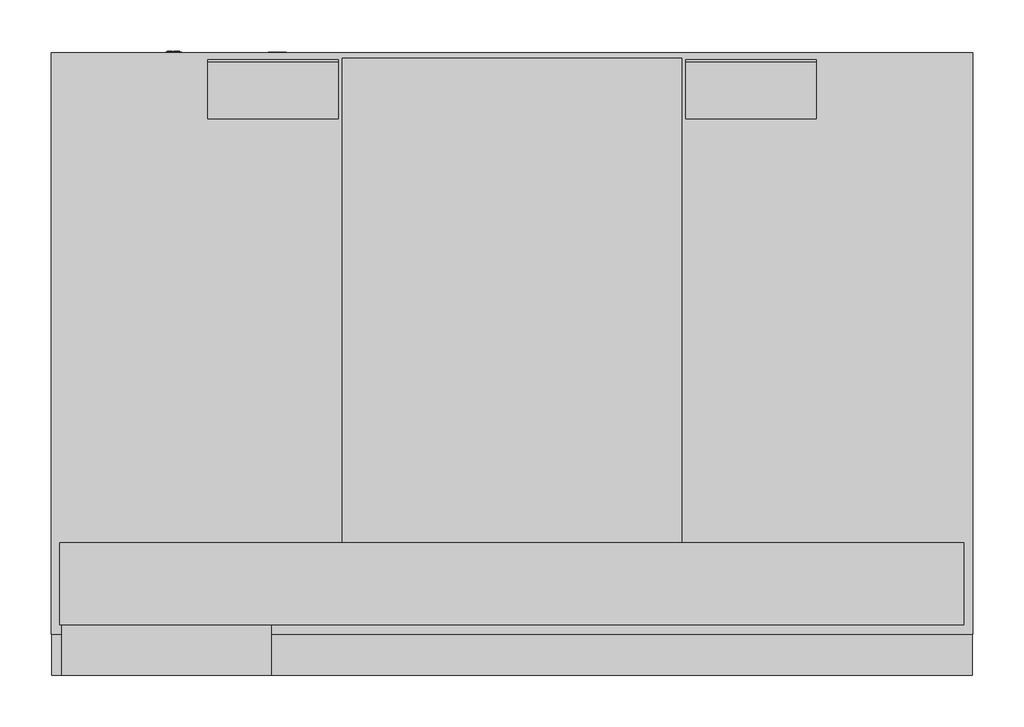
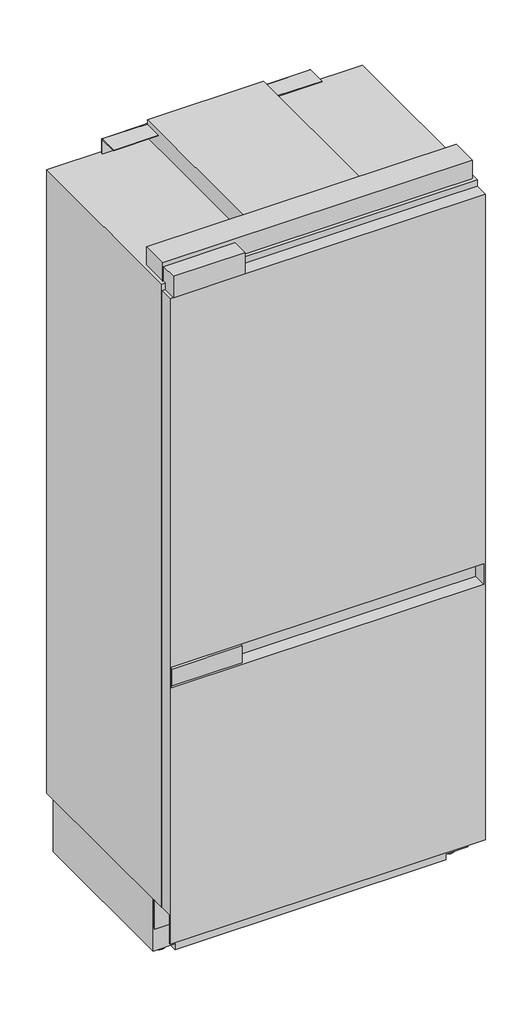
# Not in any storey: 1 proxy.
"""IFC4 building model written with IfcOpenShell, lengths in millimetres."""

import ifcopenshell
import ifcopenshell.guid

model = None  # the IFC model being written
_history = None  # IfcOwnerHistory: only IFC2X3 demands one
_inside = {}  # id of a spatial element -> (the spatial element, [elements in it])
_under = {}  # id of a project, library or spatial element -> (it, [spatial elements below it])
_declared = {}  # id of a project -> (the project, [libraries it declares])
_typed = {}  # id of a type object -> (the type object, [elements of that type])
_made_of = {}  # id of a material, layer set ... -> (it, [elements and type objects made of it])


def new_model(schema):
    """Start an empty IFC model of exactly this schema.

    Asked for "IFC4X3", IfcOpenShell would pick the latest addendum, in which some entities
    have other attributes; the version numbers below select the first issue.
    IFC2X3 requires an IfcOwnerHistory on every rooted entity: one is made here for all.
    """
    global model, _history
    if schema == "IFC4X3":
        model = ifcopenshell.file(schema_version=(4, 3, 0, 0))
    else:
        model = ifcopenshell.file(schema=schema)
    _inside.clear()
    _under.clear()
    _declared.clear()
    _typed.clear()
    _made_of.clear()
    _history = None
    if model.schema == "IFC2X3":
        org = make("IfcOrganization", Name="unknown")
        user = make(
            "IfcPersonAndOrganization",
            ThePerson=make("IfcPerson", FamilyName="unknown"),
            TheOrganization=org,
        )
        app = make(
            "IfcApplication",
            ApplicationDeveloper=org,
            Version="unknown",
            ApplicationFullName="unknown",
            ApplicationIdentifier="unknown",
        )
        _history = make(
            "IfcOwnerHistory",
            OwningUser=user,
            OwningApplication=app,
            ChangeAction="ADDED",
            CreationDate=0,
        )
    return model


def make(cls, **values):
    """One entity of the class cls with the attributes given. An attribute that is None is left unset."""
    return model.create_entity(
        cls, **{name: value for name, value in values.items() if value is not None}
    )


def rooted(cls, **values):
    """An entity with a GlobalId (a new one), such as an element, a storey or a relation."""
    return make(cls, GlobalId=ifcopenshell.guid.new(), OwnerHistory=_history, **values)


def si_unit(unit_type, name, prefix=None):
    """IfcSIUnit, for example si_unit("LENGTHUNIT", "METRE", prefix="MILLI")."""
    return make("IfcSIUnit", UnitType=unit_type, Prefix=prefix, Name=name)


def assignment(units):
    """IfcUnitAssignment: the units of a project."""
    return None if units is None else make("IfcUnitAssignment", Units=units)


def point(xyz):
    """IfcCartesianPoint."""
    return None if xyz is None else make("IfcCartesianPoint", Coordinates=xyz)


def direction(xyz):
    """IfcDirection."""
    return None if xyz is None else make("IfcDirection", DirectionRatios=xyz)


def frame(location, z_axis=None, x_axis=None):
    """IfcAxis2Placement3D, a coordinate frame: its origin and axes. An axis left out is left unset."""
    return make(
        "IfcAxis2Placement3D",
        Location=point(location),
        Axis=direction(z_axis),
        RefDirection=direction(x_axis),
    )


def frame_2d(location, x_axis=None):
    """IfcAxis2Placement2D, a coordinate frame in the plane: its origin and x axis."""
    return make(
        "IfcAxis2Placement2D", Location=point(location), RefDirection=direction(x_axis)
    )


def origin():
    """The frame at (0, 0, 0) with its axes left unset."""
    return frame((0.0, 0.0, 0.0))


def place(relative_to, where):
    """IfcLocalPlacement: puts the frame where relative to a parent placement (None: the world)."""
    return make(
        "IfcLocalPlacement", PlacementRelTo=relative_to, RelativePlacement=where
    )


def context(
    kind, dimensions, precision=None, world=None, true_north=None, identifier=None
):
    """IfcGeometricRepresentationContext, for example the 3D "Model" context."""
    return make(
        "IfcGeometricRepresentationContext",
        ContextIdentifier=identifier,
        ContextType=kind,
        CoordinateSpaceDimension=dimensions,
        Precision=precision,
        WorldCoordinateSystem=world,
        TrueNorth=true_north,
    )


def project(units=None, contexts=None):
    """IfcProject with its units and contexts."""
    return rooted(
        "IfcProject",
        Name="project",
        RepresentationContexts=contexts,
        UnitsInContext=assignment(units),
    )


def spatial(cls, under=None, at=None, **own):
    """A site, building, storey or space (cls), placed at a placement, below another one or the project."""
    s = rooted(cls, ObjectPlacement=at, **own)
    if under is not None:
        _under.setdefault(under.id(), (under, []))[1].append(s)
    return s


def polyline(points):
    """IfcPolyline through the points."""
    return make("IfcPolyline", Points=[point(p) for p in points])


def circle_curve(where, radius):
    """IfcCircle in the frame where."""
    return make("IfcCircle", Position=where, Radius=radius)


def trimmed(basis, trim1, trim2, sense, master):
    """IfcTrimmedCurve: the piece of a basis curve between two trims."""
    return make(
        "IfcTrimmedCurve",
        BasisCurve=basis,
        Trim1=trim1,
        Trim2=trim2,
        SenseAgreement=sense,
        MasterRepresentation=master,
    )


def segment(curve, same_sense, transition):
    """IfcCompositeCurveSegment."""
    return make(
        "IfcCompositeCurveSegment",
        Transition=transition,
        SameSense=same_sense,
        ParentCurve=curve,
    )


def composite_curve(segments, self_intersect=None):
    """IfcCompositeCurve: segments joined end to end."""
    return make("IfcCompositeCurve", Segments=segments, SelfIntersect=self_intersect)


def outline(outer, holes=None, kind="AREA"):
    """IfcArbitraryClosedProfileDef: a profile drawn as a closed curve; with holes, ...WithVoids."""
    if holes is None:
        return make("IfcArbitraryClosedProfileDef", ProfileType=kind, OuterCurve=outer)
    return make(
        "IfcArbitraryProfileDefWithVoids",
        ProfileType=kind,
        OuterCurve=outer,
        InnerCurves=holes,
    )


def extrude(swept, where, along, depth):
    """IfcExtrudedAreaSolid: the profile swept, set in the frame where, extruded along a direction by depth."""
    return make(
        "IfcExtrudedAreaSolid",
        SweptArea=swept,
        Position=where,
        ExtrudedDirection=direction(along),
        Depth=depth,
    )


def faces_of(points, faces, orient=None, outer=None):
    """IfcFace entities. A face is a list of loops; a loop is a list of indices into points, from 0.

    orient and outer hold one flag for each loop. By default every Orientation is true, the
    first loop of a face is its IfcFaceOuterBound and the others are IfcFaceBound.
    """
    made = []
    for i, loops in enumerate(faces):
        bounds = []
        for j, loop in enumerate(loops):
            is_outer = j == 0 if outer is None else outer[i][j]
            bounds.append(
                make(
                    "IfcFaceOuterBound" if is_outer else "IfcFaceBound",
                    Bound=make("IfcPolyLoop", Polygon=[points[k] for k in loop]),
                    Orientation=True if orient is None else orient[i][j],
                )
            )
        made.append(make("IfcFace", Bounds=bounds))
    return made


def faceted_brep(points, faces, orient=None, outer=None, voids=None):
    """IfcFacetedBrep: a solid bounded by flat faces; with voids (closed shells), ...WithVoids."""
    shared = [point(p) for p in points]
    hull = make("IfcClosedShell", CfsFaces=faces_of(shared, faces, orient, outer))
    if voids is None:
        return make("IfcFacetedBrep", Outer=hull)
    return make(
        "IfcFacetedBrepWithVoids",
        Outer=hull,
        Voids=[
            make(cls, CfsFaces=faces_of(shared, fs, o, b)) for cls, fs, o, b in voids
        ],
    )


def shape(context_of_items, identifier, shape_type, items):
    """IfcShapeRepresentation: the items that make up one representation, for example the "Body"."""
    return make(
        "IfcShapeRepresentation",
        ContextOfItems=context_of_items,
        RepresentationIdentifier=identifier,
        RepresentationType=shape_type,
        Items=items,
    )


def source(mapping_origin, context_of_items, identifier, shape_type, items):
    """IfcRepresentationMap: a shape defined once, which mapped items show again and again."""
    return make(
        "IfcRepresentationMap",
        MappingOrigin=mapping_origin,
        MappedRepresentation=shape(context_of_items, identifier, shape_type, items),
    )


def transform(
    local_origin,
    x_axis=None,
    y_axis=None,
    z_axis=None,
    scale=None,
    scale2=None,
    scale3=None,
    uniform=True,
):
    """IfcCartesianTransformationOperator3D, or its non-uniform kind. x_axis, y_axis, z_axis: its Axis1, 2, 3."""
    if uniform:
        return make(
            "IfcCartesianTransformationOperator3D",
            Axis1=direction(x_axis),
            Axis2=direction(y_axis),
            LocalOrigin=point(local_origin),
            Scale=scale,
            Axis3=direction(z_axis),
        )
    return make(
        "IfcCartesianTransformationOperator3DnonUniform",
        Axis1=direction(x_axis),
        Axis2=direction(y_axis),
        LocalOrigin=point(local_origin),
        Scale=scale,
        Axis3=direction(z_axis),
        Scale2=scale2,
        Scale3=scale3,
    )


def mapped(mapping_source, mapping_target):
    """IfcMappedItem: shows the shape of a source again, moved by a transform."""
    return make(
        "IfcMappedItem", MappingSource=mapping_source, MappingTarget=mapping_target
    )


def made_of(thing, what):
    """Note that an element or type object is made of a material, layer set ...; save() writes the relation."""
    if what is not None:
        _made_of.setdefault(what.id(), (what, []))[1].append(thing)
    return thing


def element(
    cls,
    number,
    at=None,
    inside=None,
    cuts=None,
    type_object=None,
    material=None,
    context=None,
    identifier="Body",
    shape_type=None,
    held_by="IfcProductDefinitionShape",
    body=None,
    shapes=None,
    **own,
):
    """One element of the class cls, such as IfcWall. Its Tag is "e" and its number.

    at: its placement. inside: the storey or other place that contains it. cuts: it is an
    opening in that element (IfcRelVoidsElement). A single representation is given by context,
    identifier, shape_type and body (its items); several are given by shapes. held_by: the class
    of the entity that holds the representations. save() writes the other relations.
    """
    e = rooted(cls, Tag="e%d" % number, ObjectPlacement=at, **own)
    if body is not None:
        shapes = [shape(context, identifier, shape_type, body)]
    if shapes is not None:
        e.Representation = make(held_by, Representations=shapes)
    if inside is not None:
        _inside.setdefault(inside.id(), (inside, []))[1].append(e)
    if cuts is not None:
        rooted(
            "IfcRelVoidsElement", RelatingBuildingElement=cuts, RelatedOpeningElement=e
        )
    if type_object is not None:
        _typed.setdefault(type_object.id(), (type_object, []))[1].append(e)
    return made_of(e, material)


def aggregate(whole, parts):
    """IfcRelAggregates: a whole, such as a stair, and the parts it consists of."""
    return rooted("IfcRelAggregates", RelatingObject=whole, RelatedObjects=parts)


def save(model, path):
    """Write the relations noted so far, then the file.

    IfcRelAggregates (storeys below a building ...), IfcRelContainedInSpatialStructure (elements
    in a storey), IfcRelDefinesByType, IfcRelAssociatesMaterial and IfcRelDeclares: one each for
    every whole, place, type object, material and project.
    """
    for whole, parts in _under.values():
        aggregate(whole, parts)
    for where, things in _inside.values():
        rooted(
            "IfcRelContainedInSpatialStructure",
            RelatedElements=things,
            RelatingStructure=where,
        )
    for kind, things in _typed.values():
        rooted("IfcRelDefinesByType", RelatedObjects=things, RelatingType=kind)
    for what, things in _made_of.values():
        rooted("IfcRelAssociatesMaterial", RelatedObjects=things, RelatingMaterial=what)
    for by, libraries in _declared.values():
        rooted("IfcRelDeclares", RelatingContext=by, RelatedDefinitions=libraries)
    model.write(path)


def plane_surface(at):
    """IfcPlane: the flat surface through the origin of the frame at, square to its z axis."""
    return make("IfcPlane", Position=at)


def cylinder_surface(at, radius):
    """IfcCylindricalSurface: all points at the distance radius from the z axis of the frame at."""
    return make("IfcCylindricalSurface", Position=at, Radius=radius)


def advanced_brep(points, edges, surfaces, faces):
    """IfcAdvancedBrep: a solid bounded by faces that lie on surfaces and meet in shared edges.

    An edge is (start, end): straight between two places in points (the first is 0);
    or (start, end, curve); or (start, end, curve, False) where it runs against its curve.
    A face is (place in surfaces, loops), or (place, loops, False) where it looks against
    its surface's normal. A loop lists edges by number (the first is 1), with a minus sign
    where the edge is run from its end to its start. The first loop is the outer one.
    """
    corners = [point(p) for p in points]
    vertices = [make("IfcVertexPoint", VertexGeometry=c) for c in corners]
    made = []
    for start, end, *more in edges:
        made.append(
            make(
                "IfcEdgeCurve",
                EdgeStart=vertices[start],
                EdgeEnd=vertices[end],
                EdgeGeometry=more[0] if more else make("IfcPolyline", Points=[corners[start], corners[end]]),
                SameSense=more[1] if len(more) > 1 else True,
            )
        )
    hull = []
    for where, loops, *sense in faces:
        bounds = []
        for j, loop in enumerate(loops):
            ring = [make("IfcOrientedEdge", EdgeElement=made[abs(k) - 1], Orientation=k > 0) for k in loop]
            bounds.append(
                make(
                    "IfcFaceOuterBound" if j == 0 else "IfcFaceBound",
                    Bound=make("IfcEdgeLoop", EdgeList=ring),
                    Orientation=True,
                )
            )
        hull.append(make("IfcAdvancedFace", Bounds=bounds, FaceSurface=surfaces[where], SameSense=sense[0] if sense else True))
    return make("IfcAdvancedBrep", Outer=make("IfcClosedShell", CfsFaces=hull))


def specialty_equipment_c1e7b618(model_context):
    return source(origin(), model_context, "Body", "SolidModel", [
        extrude(outline(polyline([(-244.560022, 19.5805006), (-444.560022, 19.5805006), (-444.560022, 59.5250826), (-244.560022, 59.5250826), (-244.560022, 19.5805006)])), frame((0.0, 0.0, 878.4), z_axis=(0.0, 0.0, 1.0), x_axis=(1.0, 0.0, 0.0)), (0.0, 0.0, 1.0), 50.4801375),
        extrude(outline(polyline([(-235.6444763, 19.5805006), (-440.5, 19.5805006), (-440.5, 69.0), (-235.6444763, 69.0), (-235.6444763, 19.5805006)])), frame((0.0, 0.0, 2048.9273907), z_axis=(0.0, 0.0, 1.0), x_axis=(1.0, 0.0, 0.0)), (0.0, 0.0, 1.0), 63.9078998),
        faceted_brep([(450.5, 19.5805006, 2048.9273907), (450.5, 19.5805006, 100.0958717), (450.5, 22.474204, 100.0958717), (450.5, 22.474204, 187.4499998), (450.5, 95.0, 187.4499998), (450.5, 95.0, 100.0958717), (450.5, 99.0001378, 100.0958717), (450.5, 99.0001378, 2048.9273907), (-450.5, 19.5805006, 2048.9273907), (-450.5, 99.0001378, 2048.9273907), (-450.5, 99.0001378, 100.0958717), (-450.5, 95.0, 100.0958717), (-450.5, 95.0, 187.4499998), (-450.5, 22.474204, 187.4499998), (-450.5, 22.474204, 100.0958717), (-450.5, 19.5805006, 100.0958717), (-446.5, 19.5805006, 934.8801375), (446.5, 19.5805006, 934.8801375), (446.5, 19.5805006, 872.4), (-446.5, 19.5805006, 872.4), (446.5, 93.7083842, 934.8801375), (-446.5, 93.7083842, 934.8801375), (-446.5, 93.7083842, 872.4), (446.5, 93.7083842, 872.4)], [[[0, 1, 2, 3, 4, 5, 6, 7]], [[8, 9, 10, 11, 12, 13, 14, 15]], [[1, 0, 8, 15], [16, 17, 18, 19]], [[1, 15, 14, 2]], [[10, 6, 5, 11]], [[7, 6, 10, 9]], [[0, 7, 9, 8]], [[13, 3, 2, 14]], [[4, 12, 11, 5]], [[3, 13, 12, 4]], [[20, 21, 22, 23]], [[21, 20, 17, 16]], [[22, 21, 16, 19]], [[23, 22, 19, 18]], [[20, 23, 18, 17]]]),
        extrude(outline(composite_curve([segment(trimmed(circle_curve(frame_2d((619.3046941, 2111.8999939)), 2.5), [point((619.3046941, 2114.3999939))], [point((621.8046941, 2111.8999939))], False, "CARTESIAN"), True, "CONTINUOUS"), segment(polyline([(621.8046941, 2111.8999939), (621.8046941, 2068.8999998), (619.3046941, 2068.8999998), (619.3046941, 2112.2000427), (563.7854458, 2112.2000427), (563.7854458, 2114.3999939), (619.3046941, 2114.3999939)]), True, "CONTINUOUS")], self_intersect=False)), frame((170.0666274, 0.0, 0.0), z_axis=(1.0, 0.0, 0.0), x_axis=(0.0, 1.0, 0.0)), (0.0, 0.0, 1.0), 127.807223),
        extrude(outline(composite_curve([segment(trimmed(circle_curve(frame_2d((619.3046941, 2111.8999939)), 2.5), [point((619.3046941, 2114.3999939))], [point((621.8046941, 2111.8999939))], False, "CARTESIAN"), True, "CONTINUOUS"), segment(polyline([(621.8046941, 2111.8999939), (621.8046941, 2068.8999998), (619.3046941, 2068.8999998), (619.3046941, 2112.2000427), (563.7854458, 2112.2000427), (563.7854458, 2114.3999939), (619.3046941, 2114.3999939)]), True, "CONTINUOUS")], self_intersect=False)), frame((-297.8738504, 0.0, 0.0), z_axis=(1.0, 0.0, 0.0), x_axis=(0.0, 1.0, 0.0)), (0.0, 0.0, 1.0), 127.807223),
        faceted_brep([(451.0, 628.6068181, 2068.8999998), (-451.0, 628.6068181, 2068.8999998), (-451.0, 59.5250826, 2068.8999998), (451.0, 59.5250826, 2068.8999998), (451.0, 628.6068181, 187.4499998), (451.0, 59.5250826, 187.4499998), (-451.0, 59.5250826, 187.4499998), (-451.0, 628.6068181, 187.4499998), (-402.0265198, 59.5250826, 1999.0), (402.0265198, 59.5250826, 1999.0), (402.0265198, 59.5250826, 920.0), (-402.0265198, 59.5250826, 920.0), (-402.0265198, 59.5250826, 777.0), (402.0265198, 59.5250826, 777.0), (402.0265198, 59.5250826, 250.0), (-402.0265198, 59.5250826, 250.0), (402.0265198, 551.4500008, 1999.0), (-402.0265198, 551.4500008, 1999.0), (-402.0265198, 551.4500008, 920.0), (402.0265198, 551.4500008, 920.0), (402.0265198, 535.9500008, 777.0), (-402.0265198, 535.9500008, 777.0), (-402.0265198, 535.9500008, 250.0), (402.0265198, 535.9500008, 250.0)], [[[0, 1, 2, 3]], [[4, 5, 6, 7]], [[0, 3, 5, 4]], [[3, 2, 6, 5], [8, 9, 10, 11], [12, 13, 14, 15]], [[2, 1, 7, 6]], [[1, 0, 4, 7]], [[16, 17, 18, 19]], [[17, 16, 9, 8]], [[18, 17, 8, 11]], [[19, 18, 11, 10]], [[16, 19, 10, 9]], [[20, 21, 22, 23]], [[21, 20, 13, 12]], [[22, 21, 12, 15]], [[23, 22, 15, 14]], [[20, 23, 14, 13]]]),
        advanced_brep(
        [(-449.5, 599.2160102, 187.4499998), (449.5, 599.2160102, 187.4499998), (449.5, 599.2160102, 27.500001), (387.3898346, 599.2160102, 27.500001), (387.3898346, 599.2160102, 10.4), (-387.3898346, 599.2160102, 10.4), (-387.3898346, 599.2160102, 27.500001), (-449.5, 599.2160102, 27.500001), (449.5, 104.7548719, 187.4499998), (-449.5, 104.7548719, 187.4499998), (-449.5, 104.7548719, 27.500001), (-387.3898346, 104.7548719, 27.500001), (-387.3898346, 104.7548719, 10.4), (387.3898346, 104.7548719, 10.4), (387.3898346, 104.7548719, 27.500001), (449.5, 104.7548719, 27.500001), (-406.4950732, 165.898232, 25.006546), (-406.4950732, 215.911324, 25.006546), (-406.4950732, 215.7866997, 27.500001), (-406.4950732, 166.0228563, 27.500001), (-406.4950732, 488.6286933, 25.006546), (-406.4950732, 538.6417854, 25.006546), (-406.4950732, 538.517161, 27.500001), (-406.4950732, 488.7533177, 27.500001), (-424.0, 215.911324, 25.006546), (-424.0, 165.898232, 25.006546), (-424.0, 166.0228563, 27.500001), (-424.0, 215.7866997, 27.500001), (-424.0, 538.6417854, 25.006546), (-424.0, 488.6286933, 25.006546), (-424.0, 488.7533177, 27.500001), (-424.0, 538.517161, 27.500001), (424.0, 165.898139, 25.006546), (424.0, 215.911231, 25.006546), (424.0, 215.7866067, 27.500001), (424.0, 166.0227633, 27.500001), (424.0, 488.6286933, 25.006546), (424.0, 538.6417854, 25.006546), (424.0, 538.517161, 27.500001), (424.0, 488.7533177, 27.500001), (406.4950732, 215.911231, 25.006546), (406.4950732, 165.898139, 25.006546), (406.4950732, 166.0227633, 27.500001), (406.4950732, 215.7866067, 27.500001), (406.4950732, 538.6417854, 25.006546), (406.4950732, 488.6286933, 25.006546), (406.4950732, 488.7533177, 27.500001), (406.4950732, 538.517161, 27.500001)],
        [
            (0, 1),
            (1, 2),
            (2, 3),
            (3, 4),
            (4, 5),
            (5, 6),
            (6, 7),
            (7, 0),
            (8, 9),
            (9, 10),
            (10, 11),
            (11, 12),
            (12, 13),
            (13, 14),
            (14, 15),
            (15, 8),
            (0, 9),
            (8, 1),
            (7, 10),
            (4, 13),
            (12, 5),
            (15, 2),
            (16, 17, circle_curve(frame((-406.4950732, 190.904778, 25.006546), z_axis=(1.0, 0.0, 0.0), x_axis=(0.0, 1.0, 0.0)), 25.006546)),
            (17, 18, circle_curve(frame((-406.4950732, 190.904778, 25.006546), z_axis=(1.0, 0.0, 0.0), x_axis=(0.0, 1.0, 0.0)), 25.006546)),
            (18, 19),
            (19, 16, circle_curve(frame((-406.4950732, 190.904778, 25.006546), z_axis=(1.0, 0.0, 0.0), x_axis=(0.0, 1.0, 0.0)), 25.006546)),
            (20, 21, circle_curve(frame((-406.4950732, 513.6352393, 25.006546), z_axis=(1.0, 0.0, 0.0), x_axis=(0.0, 1.0, 0.0)), 25.006546)),
            (21, 22, circle_curve(frame((-406.4950732, 513.6352393, 25.006546), z_axis=(1.0, 0.0, 0.0), x_axis=(0.0, 1.0, 0.0)), 25.006546)),
            (22, 23),
            (23, 20, circle_curve(frame((-406.4950732, 513.6352393, 25.006546), z_axis=(1.0, 0.0, 0.0), x_axis=(0.0, 1.0, 0.0)), 25.006546)),
            (24, 25, circle_curve(frame((-424.0, 190.904778, 25.006546), z_axis=(-1.0, 0.0, 0.0), x_axis=(0.0, 1.0, 0.0)), 25.006546)),
            (25, 26, circle_curve(frame((-424.0, 190.904778, 25.006546), z_axis=(-1.0, 0.0, 0.0), x_axis=(0.0, 1.0, 0.0)), 25.006546)),
            (26, 27),
            (27, 24, circle_curve(frame((-424.0, 190.904778, 25.006546), z_axis=(-1.0, 0.0, 0.0), x_axis=(0.0, 1.0, 0.0)), 25.006546)),
            (28, 29, circle_curve(frame((-424.0, 513.6352393, 25.006546), z_axis=(-1.0, 0.0, 0.0), x_axis=(0.0, 1.0, 0.0)), 25.006546)),
            (29, 30, circle_curve(frame((-424.0, 513.6352393, 25.006546), z_axis=(-1.0, 0.0, 0.0), x_axis=(0.0, 1.0, 0.0)), 25.006546)),
            (30, 31),
            (31, 28, circle_curve(frame((-424.0, 513.6352393, 25.006546), z_axis=(-1.0, 0.0, 0.0), x_axis=(0.0, 1.0, 0.0)), 25.006546)),
            (16, 25),
            (24, 17),
            (20, 29),
            (28, 21),
            (32, 33, circle_curve(frame((424.0, 190.904685, 25.006546), z_axis=(1.0, 0.0, 0.0), x_axis=(0.0, 1.0, 0.0)), 25.006546)),
            (33, 34, circle_curve(frame((424.0, 190.904685, 25.006546), z_axis=(1.0, 0.0, 0.0), x_axis=(0.0, 1.0, 0.0)), 25.006546)),
            (34, 35),
            (35, 32, circle_curve(frame((424.0, 190.904685, 25.006546), z_axis=(1.0, 0.0, 0.0), x_axis=(0.0, 1.0, 0.0)), 25.006546)),
            (36, 37, circle_curve(frame((424.0, 513.6352393, 25.006546), z_axis=(1.0, 0.0, 0.0), x_axis=(0.0, 1.0, 0.0)), 25.006546)),
            (37, 38, circle_curve(frame((424.0, 513.6352393, 25.006546), z_axis=(1.0, 0.0, 0.0), x_axis=(0.0, 1.0, 0.0)), 25.006546)),
            (38, 39),
            (39, 36, circle_curve(frame((424.0, 513.6352393, 25.006546), z_axis=(1.0, 0.0, 0.0), x_axis=(0.0, 1.0, 0.0)), 25.006546)),
            (40, 41, circle_curve(frame((406.4950732, 190.904685, 25.006546), z_axis=(-1.0, 0.0, 0.0), x_axis=(0.0, 1.0, 0.0)), 25.006546)),
            (41, 42, circle_curve(frame((406.4950732, 190.904685, 25.006546), z_axis=(-1.0, 0.0, 0.0), x_axis=(0.0, 1.0, 0.0)), 25.006546)),
            (42, 43),
            (43, 40, circle_curve(frame((406.4950732, 190.904685, 25.006546), z_axis=(-1.0, 0.0, 0.0), x_axis=(0.0, 1.0, 0.0)), 25.006546)),
            (44, 45, circle_curve(frame((406.4950732, 513.6352393, 25.006546), z_axis=(-1.0, 0.0, 0.0), x_axis=(0.0, 1.0, 0.0)), 25.006546)),
            (45, 46, circle_curve(frame((406.4950732, 513.6352393, 25.006546), z_axis=(-1.0, 0.0, 0.0), x_axis=(0.0, 1.0, 0.0)), 25.006546)),
            (46, 47),
            (47, 44, circle_curve(frame((406.4950732, 513.6352393, 25.006546), z_axis=(-1.0, 0.0, 0.0), x_axis=(0.0, 1.0, 0.0)), 25.006546)),
            (32, 41),
            (40, 33),
            (36, 45),
            (44, 37),
            (19, 26),
            (27, 18),
            (23, 30),
            (31, 22),
            (43, 34),
            (35, 42),
            (47, 38),
            (39, 46),
            (11, 6),
            (14, 3),
        ],
        [
            plane_surface(frame((-449.5, 599.2160102, 187.4499998), z_axis=(0.0, 1.0, 0.0), x_axis=(1.0, 0.0, 0.0))),
            plane_surface(frame((-449.5, 104.7548719, 187.4499998), z_axis=(0.0, -1.0, 0.0), x_axis=(-1.0, 0.0, 0.0))),
            plane_surface(frame((449.5, 104.7548719, 187.4499998), z_axis=(0.0, 0.0, 1.0), x_axis=(0.0, 1.0, 0.0))),
            plane_surface(frame((-449.5, 104.7548719, 187.4499998), z_axis=(-1.0, 0.0, 0.0), x_axis=(0.0, 1.0, 0.0))),
            plane_surface(frame((-449.5, 104.7548719, 10.4), z_axis=(0.0, 0.0, -1.0), x_axis=(0.0, 1.0, 0.0))),
            plane_surface(frame((449.5, 104.7548719, 10.4), z_axis=(1.0, 0.0, 0.0), x_axis=(0.0, 1.0, 0.0))),
            plane_surface(frame((-406.4950732, 215.911324, 25.006546), z_axis=(1.0, 0.0, 0.0), x_axis=(0.0, 0.0, 1.0))),
            plane_surface(frame((-424.0, 215.911324, 25.006546), z_axis=(-1.0, 0.0, 0.0), x_axis=(0.0, 0.0, -1.0))),
            cylinder_surface(frame((-424.0, 190.904778, 25.006546), z_axis=(1.0, 0.0, 0.0), x_axis=(0.0, 1.0, 0.0)), 25.006546),
            cylinder_surface(frame((0.0, 513.6352393, 25.006546), z_axis=(1.0, 0.0, 0.0), x_axis=(0.0, 1.0, 0.0)), 25.006546),
            plane_surface(frame((424.0, 215.911231, 25.006546), z_axis=(1.0, 0.0, 0.0), x_axis=(0.0, 0.0, 1.0))),
            plane_surface(frame((406.4950732, 215.911231, 25.006546), z_axis=(-1.0, 0.0, 0.0), x_axis=(0.0, 0.0, -1.0))),
            cylinder_surface(frame((424.0, 190.904685, 25.006546), z_axis=(-1.0, 0.0, 0.0), x_axis=(0.0, 1.0, 0.0)), 25.006546),
            cylinder_surface(frame((0.0, 513.6352393, 25.006546), z_axis=(-1.0, 0.0, 0.0), x_axis=(0.0, 1.0, 0.0)), 25.006546),
            plane_surface(frame((-387.3898346, -429.4357797, 0.0), z_axis=(-1.0, 0.0, 0.0), x_axis=(0.0, 1.0, 0.0))),
            plane_surface(frame((-387.3898346, -429.4357797, 27.500001), z_axis=(0.0, 0.0, -1.0), x_axis=(0.0, 1.0, 0.0))),
            plane_surface(frame((451.0, -429.4357797, 27.500001), z_axis=(0.0, 0.0, -1.0), x_axis=(0.0, 1.0, 0.0))),
            plane_surface(frame((387.3898346, -429.4357797, 27.500001), z_axis=(1.0, 0.0, 0.0), x_axis=(0.0, 1.0, 0.0))),
        ],
        [
            (0, [[1, 2, 3, 4, 5, 6, 7, 8]]),
            (1, [[9, 10, 11, 12, 13, 14, 15, 16]]),
            (2, [[-1, 17, -9, 18]]),
            (3, [[-17, -8, 19, -10]]),
            (4, [[-5, 20, -13, 21]]),
            (5, [[-18, -16, 22, -2]]),
            (6, [[23, 24, 25, 26]]),
            (6, [[27, 28, 29, 30]]),
            (7, [[31, 32, 33, 34]]),
            (7, [[35, 36, 37, 38]]),
            (8, [[-23, 39, -31, 40]]),
            (9, [[-27, 41, -35, 42]]),
            (10, [[43, 44, 45, 46]]),
            (10, [[47, 48, 49, 50]]),
            (11, [[51, 52, 53, 54]]),
            (11, [[55, 56, 57, 58]]),
            (12, [[-43, 59, -51, 60]]),
            (13, [[-47, 61, -55, 62]]),
            (8, [[-39, -26, 63, -32]]),
            (8, [[-40, -34, 64, -24]]),
            (9, [[-41, -30, 65, -36]]),
            (9, [[-42, -38, 66, -28]]),
            (12, [[-60, -54, 67, -44]]),
            (12, [[-59, -46, 68, -52]]),
            (13, [[-62, -58, 69, -48]]),
            (13, [[-61, -50, 70, -56]]),
            (14, [[71, -6, -21, -12]]),
            (15, [[-71, -11, -19, -7], [-25, -64, -33, -63], [-29, -66, -37, -65]]),
            (16, [[72, -3, -22, -15], [-45, -67, -53, -68], [-49, -69, -57, -70]]),
            (17, [[-72, -14, -20, -4]]),
        ],
    ),
        extrude(outline(composite_curve([segment(trimmed(circle_curve(frame_2d((-413.6, 136.7)), 15.0), [point((-428.6, 136.7))], [point((-398.6, 136.7))], False, "CARTESIAN"), True, "CONTINUOUS"), segment(trimmed(circle_curve(frame_2d((-413.6, 136.7)), 15.0), [point((-398.6, 136.7))], [point((-428.6, 136.7))], False, "CARTESIAN"), True, "CONTINUOUS")], self_intersect=False)), frame((0.0, 0.0, 10.4), z_axis=(0.0, 0.0, 1.0), x_axis=(1.0, 0.0, 0.0)), (0.0, 0.0, 1.0), 3.4999939),
        extrude(outline(composite_curve([segment(trimmed(circle_curve(frame_2d((413.6, 136.7)), 15.0), [point((398.6, 136.7))], [point((428.6, 136.7))], False, "CARTESIAN"), True, "CONTINUOUS"), segment(trimmed(circle_curve(frame_2d((413.6, 136.7)), 15.0), [point((428.6, 136.7))], [point((398.6, 136.7))], False, "CARTESIAN"), True, "CONTINUOUS")], self_intersect=False)), frame((0.0, 0.0, 10.4), z_axis=(0.0, 0.0, 1.0), x_axis=(1.0, 0.0, 0.0)), (0.0, 0.0, 1.0), 3.4999939),
        extrude(outline(composite_curve([segment(trimmed(circle_curve(frame_2d((413.6, 136.7)), 10.0), [point((403.6, 136.7))], [point((423.6, 136.7))], False, "CARTESIAN"), True, "CONTINUOUS"), segment(trimmed(circle_curve(frame_2d((413.6, 136.7)), 10.0), [point((423.6, 136.7))], [point((403.6, 136.7))], False, "CARTESIAN"), True, "CONTINUOUS")], self_intersect=False)), frame((0.0, 0.0, 13.8999939), z_axis=(0.0, 0.0, 1.0), x_axis=(1.0, 0.0, 0.0)), (0.0, 0.0, 1.0), 13.6000071),
        extrude(outline(composite_curve([segment(trimmed(circle_curve(frame_2d((-413.6, 136.7)), 10.0), [point((-423.6, 136.7))], [point((-403.6, 136.7))], False, "CARTESIAN"), True, "CONTINUOUS"), segment(trimmed(circle_curve(frame_2d((-413.6, 136.7)), 10.0), [point((-403.6, 136.7))], [point((-423.6, 136.7))], False, "CARTESIAN"), True, "CONTINUOUS")], self_intersect=False)), frame((0.0, 0.0, 13.8999939), z_axis=(0.0, 0.0, 1.0), x_axis=(1.0, 0.0, 0.0)), (0.0, 0.0, 1.0), 13.6000071),
        faceted_brep([(166.0, 623.4547186, 2122.8999939), (-166.0, 623.4547186, 2122.8999939), (-166.0, 149.0, 2122.8999939), (166.0, 149.0, 2122.8999939), (-166.0, 623.4547186, 2068.8999998), (166.0, 623.4547186, 2068.8999998), (166.0, 149.0, 2068.8999998), (442.1341127, 149.0, 2068.8999998), (442.1341127, 69.0, 2068.8999998), (-442.7652816, 69.0, 2068.8999998), (-442.7652816, 149.0, 2068.8999998), (-166.0, 149.0, 2068.8999998), (442.1341127, 69.0, 2124.5509637), (442.1341127, 149.0, 2124.5509637), (-442.7652816, 69.0, 2124.5509637), (-442.7652816, 149.0, 2124.5509637)], [[[0, 1, 2, 3]], [[4, 5, 6, 7, 8, 9, 10, 11]], [[5, 0, 3, 6]], [[1, 0, 5, 4]], [[1, 4, 11, 2]], [[12, 8, 7, 13]], [[14, 15, 10, 9]], [[8, 12, 14, 9]], [[13, 7, 6, 3, 2, 11, 10, 15]], [[12, 13, 15, 14]]]),
        extrude(outline(composite_curve([segment(trimmed(circle_curve(frame_2d((68.8909912, -331.0)), 8.0), [point((68.8909912, -339.0))], [point((68.8909912, -323.0))], False, "CARTESIAN"), True, "CONTINUOUS"), segment(trimmed(circle_curve(frame_2d((68.8909912, -331.0)), 8.0), [point((68.8909912, -323.0))], [point((68.8909912, -339.0))], False, "CARTESIAN"), True, "CONTINUOUS")], self_intersect=False)), frame((0.0, 599.2160102, 0.0), z_axis=(0.0, 1.0, 0.0), x_axis=(0.0, 0.0, 1.0)), (0.0, 0.0, 1.0), 30.0),
        extrude(outline(polyline([(64.7404068, -325.0981918), (72.7769116, -325.0981918), (72.7769116, -330.8744296), (71.7723485, -330.8744296), (71.7723485, -326.1027549), (69.3865111, -326.1027549), (69.3865111, -330.6232888), (68.381948, -330.6232888), (68.381948, -326.1027549), (65.7449699, -326.1027549), (65.7449699, -331.0), (64.7404068, -331.0), (64.7404068, -325.0981918)])), frame((0.0, 629.2160102, 0.0), z_axis=(0.0, 1.0, 0.0), x_axis=(0.0, 0.0, 1.0)), (0.0, 0.0, 1.0), 1.0),
        extrude(outline(polyline([(64.7404068, -332.5068447), (72.7769116, -332.5068447), (72.7769116, -333.5114078), (65.7449699, -333.5114078), (65.7449699, -337.5296602), (64.7404068, -337.5296602), (64.7404068, -332.5068447)])), frame((0.0, 629.2160102, 0.0), z_axis=(0.0, 1.0, 0.0), x_axis=(0.0, 0.0, 1.0)), (0.0, 0.0, 1.0), 1.0),
        extrude(outline(composite_curve([segment(trimmed(circle_curve(frame_2d((38.8909912, -229.0)), 8.0), [point((38.8909912, -237.0))], [point((38.8909912, -221.0))], False, "CARTESIAN"), True, "CONTINUOUS"), segment(trimmed(circle_curve(frame_2d((38.8909912, -229.0)), 8.0), [point((38.8909912, -221.0))], [point((38.8909912, -237.0))], False, "CARTESIAN"), True, "CONTINUOUS")], self_intersect=False)), frame((0.0, 599.2160102, 0.0), z_axis=(0.0, 1.0, 0.0), x_axis=(0.0, 0.0, 1.0)), (0.0, 0.0, 1.0), 30.0),
        extrude(outline(polyline([(35.5144425, -229.9875487), (43.5509473, -227.795953), (43.5509473, -228.8319087), (38.2691429, -230.1033089), (36.6386899, -230.4957164), (38.0807873, -230.9155923), (43.5509473, -232.5087666), (43.5509473, -234.001877), (39.5856699, -235.159479), (36.6386899, -236.0208134), (38.222054, -236.4014486), (43.5509473, -237.684621), (43.5509473, -238.7205767), (35.5144425, -236.527019), (35.5144425, -235.4537846), (41.7144804, -233.527064), (42.5797389, -233.2582649), (41.5378971, -232.9561111), (35.5144425, -231.2000877), (35.5144425, -229.9875487)])), frame((0.0, 628.6068181, 0.0), z_axis=(0.0, 1.0, 0.0), x_axis=(0.0, 0.0, 1.0)), (0.0, 0.0, 1.0), 1.0),
        extrude(outline(polyline([(35.5144425, -221.1407225), (43.5509473, -221.1407225), (43.5509473, -222.1452856), (39.6170625, -222.1452856), (43.5509473, -226.2655639), (43.5509473, -227.6703826), (40.2468765, -224.2113109), (35.5144425, -227.795953), (35.5144425, -226.5677177), (39.5680116, -223.4990913), (38.2769911, -222.1452856), (35.5144425, -222.1452856), (35.5144425, -221.1407225)])), frame((0.0, 628.6068181, 0.0), z_axis=(0.0, 1.0, 0.0), x_axis=(0.0, 0.0, 1.0)), (0.0, 0.0, 1.0), 1.0),
    ])


model = new_model("IFC4")

# Units and contexts
model_context = context("Model", 3, world=origin())
ifc_project = project(units=[si_unit("LENGTHUNIT", "METRE", prefix="MILLI")], contexts=[model_context])

# Site, building
site = spatial("IfcSite", under=ifc_project)
building = spatial("IfcBuilding", under=site)

# Proxy
placement = place(None, origin())
specialty_equipment_shape = specialty_equipment_c1e7b618(model_context)
element("IfcBuildingElementProxy", 1, Name="12866720_GB_KFMC3844_L : 38384410_GB_12866720_KFMC3844_L", ObjectType="12866720_GB_KFMC3844_L : 38384410_GB_12866720_KFMC3844_L", at=placement, inside=building, context=model_context, shape_type="MappedRepresentation", body=[
    mapped(specialty_equipment_shape, transform((0.0, 0.0, 0.0), x_axis=(1.0, 0.0, 0.0), y_axis=(0.0, 1.0, 0.0), z_axis=(0.0, 0.0, 1.0))),
])

save(model, "model.ifc")
